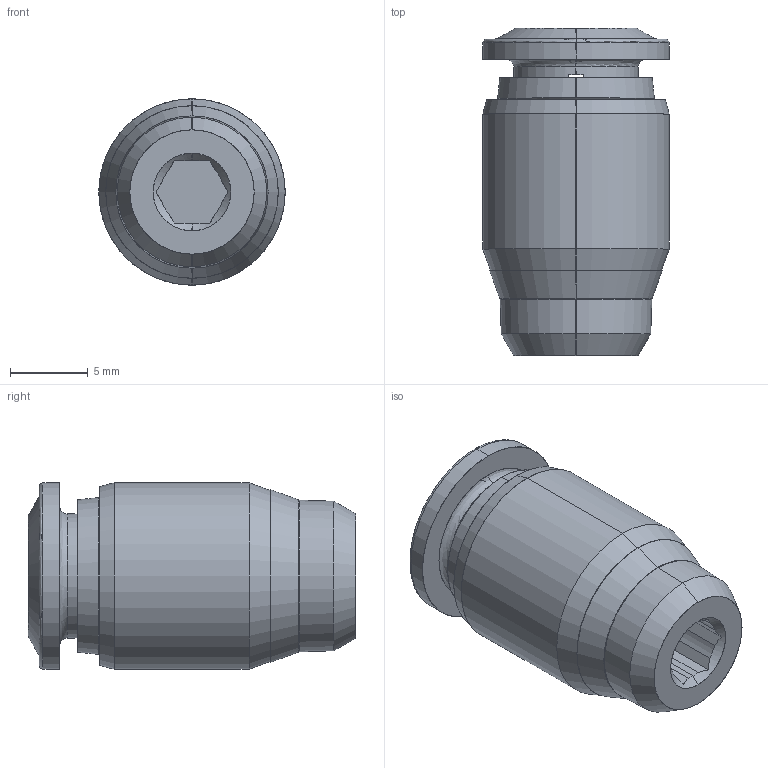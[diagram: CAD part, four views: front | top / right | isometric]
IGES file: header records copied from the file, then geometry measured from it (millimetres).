
Start section: SolidWorks IGES file using analytic representation for surfaces
Global section: file name: K:\Disegni Esecutivi\Serie 57000\ASSIEMI_57000\57010\ASSIEMI_PIENI_57010\5701000003A.IGS; native system: SolidWorks 2007; preprocessor: SolidWorks 2007; author: cad02; date: 080131.143709; units: millimetre
Bounding box: 12 x 21.1 x 12 mm (x, y, z)
Surface area: 1364.3 mm2 (no closed solid volume)
Topology: 0 solids, 0 shells, 91 faces, 1335 edges, 1335 vertices
Faces by surface type: revolution 51, bspline 40
